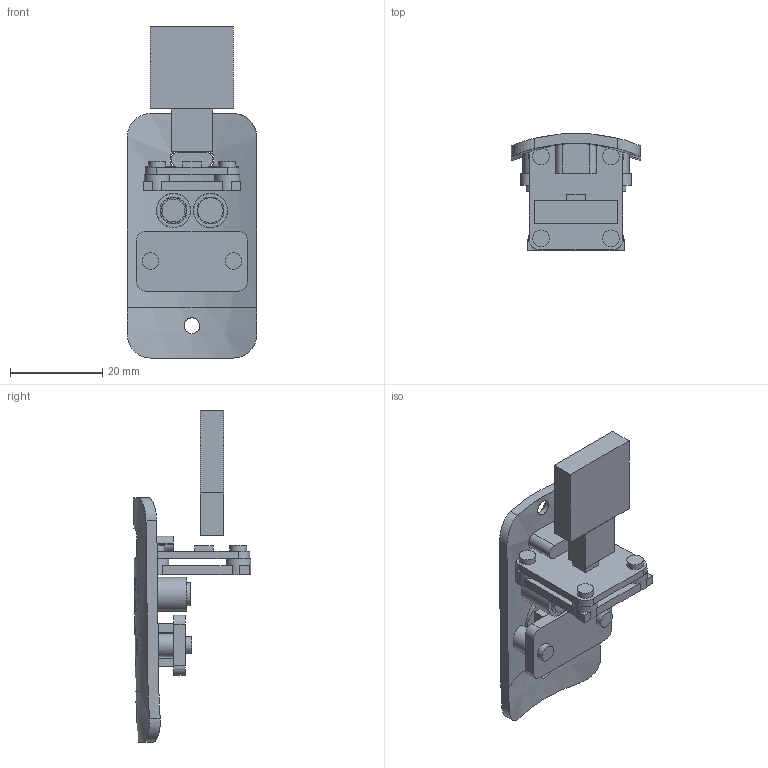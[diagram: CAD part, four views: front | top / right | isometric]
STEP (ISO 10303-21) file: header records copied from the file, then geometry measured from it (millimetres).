
FILE_DESCRIPTION(('FreeCAD Model'),'2;1');
FILE_NAME('Open CASCADE Shape Model','2026-09-20T12:19:50',('FreeCAD'),( 'FreeCAD'),'Open CASCADE STEP processor 7.8','FreeCAD','Unknown');
FILE_SCHEMA(('AUTOMOTIVE_DESIGN { 1 0 10303 214 1 1 1 1 }'));
Length unit declared in the file: millimetre
Products named in the file (1): Open CASCADE STEP translator 7.8 1
Bounding box: 28 x 25.46 x 72 mm (x, y, z)
Volume: 8592.2 mm3; surface area: 10216.3 mm2
Topology: 21 solids, 21 shells, 257 faces, 624 edges, 423 vertices
Faces by surface type: plane 157, cylinder 83, cone 16, sphere 1
Full cylindrical faces by diameter (mm): 1.7 x6, 1.9 x6, 2.2 x2, 2.5 x4, 2.96 x2, 3.2 x3, 3.4 x2, 3.6 x6, 5 x3, 5.4 x2, 5.5 x2, 5.8 x2, 7.4 x2, 9.8 x1, 10.4 x1, 13 x1
Entity records: 11991 total; most frequent: CARTESIAN_POINT 5804, DIRECTION 1267, ORIENTED_EDGE 1244, EDGE_CURVE 622, AXIS2_PLACEMENT_3D 456, VERTEX_POINT 423, LINE 355, VECTOR 355
